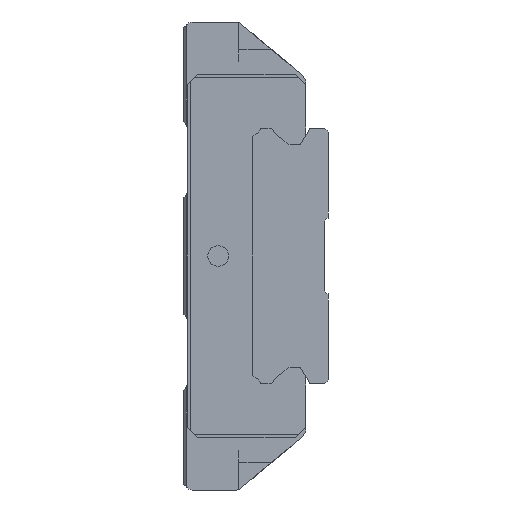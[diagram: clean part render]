
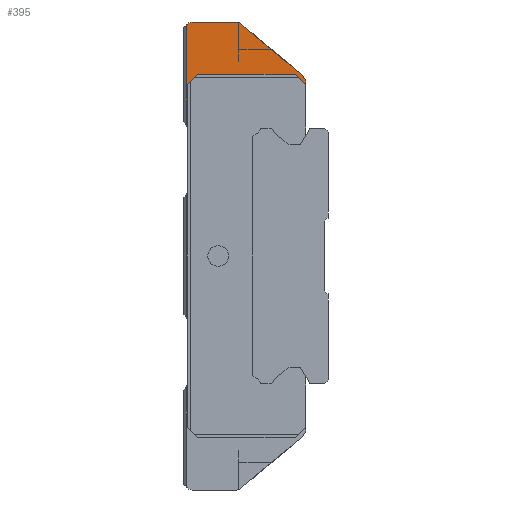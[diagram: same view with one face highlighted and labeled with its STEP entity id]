
A CAD part, left-side view. The second image highlights one B-rep face of the part: STEP entity #395.
In plain terms, the highlighted planar face has unit normal (-1, 0, 0).
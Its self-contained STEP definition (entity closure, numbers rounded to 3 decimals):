
#395 = ADVANCED_FACE( '', ( #1189 ), #1190, .F. );
#1189 = FACE_OUTER_BOUND( '', #2118, .T. );
#1190 = PLANE( '', #2119 );
#2118 = EDGE_LOOP( '', ( #4527, #4528, #4529, #4530, #4531, #4532, #4533, #4534, #4535, #4536, #4537, #4538, #4539 ) );
#2119 = AXIS2_PLACEMENT_3D( '', #4540, #4541, #4542 );
#4527 = ORIENTED_EDGE( '', *, *, #6318, .T. );
#4528 = ORIENTED_EDGE( '', *, *, #6309, .F. );
#4529 = ORIENTED_EDGE( '', *, *, #6322, .T. );
#4530 = ORIENTED_EDGE( '', *, *, #6323, .T. );
#4531 = ORIENTED_EDGE( '', *, *, #6324, .T. );
#4532 = ORIENTED_EDGE( '', *, *, #6325, .T. );
#4533 = ORIENTED_EDGE( '', *, *, #6326, .F. );
#4534 = ORIENTED_EDGE( '', *, *, #6327, .F. );
#4535 = ORIENTED_EDGE( '', *, *, #6328, .F. );
#4536 = ORIENTED_EDGE( '', *, *, #6329, .F. );
#4537 = ORIENTED_EDGE( '', *, *, #6330, .F. );
#4538 = ORIENTED_EDGE( '', *, *, #6331, .F. );
#4539 = ORIENTED_EDGE( '', *, *, #6319, .F. );
#4540 = CARTESIAN_POINT( '', ( 453.2, 3.3, 0. ) );
#4541 = DIRECTION( '', ( 1., 0., 0. ) );
#4542 = DIRECTION( '', ( 0., 0., -1. ) );
#6309 = EDGE_CURVE( '', #7806, #7808, #7809, .T. );
#6318 = EDGE_CURVE( '', #7821, #7808, #7823, .T. );
#6319 = EDGE_CURVE( '', #7821, #7824, #7825, .T. );
#6322 = EDGE_CURVE( '', #7806, #7829, #7830, .T. );
#6323 = EDGE_CURVE( '', #7829, #7831, #7832, .T. );
#6324 = EDGE_CURVE( '', #7831, #7833, #7834, .T. );
#6325 = EDGE_CURVE( '', #7833, #7835, #7836, .T. );
#6326 = EDGE_CURVE( '', #7837, #7835, #7838, .T. );
#6327 = EDGE_CURVE( '', #7839, #7837, #7840, .T. );
#6328 = EDGE_CURVE( '', #7841, #7839, #7842, .T. );
#6329 = EDGE_CURVE( '', #7843, #7841, #7844, .T. );
#6330 = EDGE_CURVE( '', #7845, #7843, #7846, .T. );
#6331 = EDGE_CURVE( '', #7824, #7845, #7847, .T. );
#7806 = VERTEX_POINT( '', #9801 );
#7808 = VERTEX_POINT( '', #9804 );
#7809 = CIRCLE( '', #9805, 1. );
#7821 = VERTEX_POINT( '', #9821 );
#7823 = LINE( '', #9824, #9825 );
#7824 = VERTEX_POINT( '', #9826 );
#7825 = LINE( '', #9827, #9828 );
#7829 = VERTEX_POINT( '', #9834 );
#7830 = LINE( '', #9835, #9836 );
#7831 = VERTEX_POINT( '', #9837 );
#7832 = LINE( '', #9838, #9839 );
#7833 = VERTEX_POINT( '', #9840 );
#7834 = LINE( '', #9841, #9842 );
#7835 = VERTEX_POINT( '', #9843 );
#7836 = LINE( '', #9844, #9845 );
#7837 = VERTEX_POINT( '', #9846 );
#7838 = LINE( '', #9847, #9848 );
#7839 = VERTEX_POINT( '', #9849 );
#7840 = CIRCLE( '', #9850, 2. );
#7841 = VERTEX_POINT( '', #9851 );
#7842 = LINE( '', #9852, #9853 );
#7843 = VERTEX_POINT( '', #9854 );
#7844 = CIRCLE( '', #9855, 1. );
#7845 = VERTEX_POINT( '', #9856 );
#7846 = LINE( '', #9857, #9858 );
#7847 = CIRCLE( '', #9859, 1. );
#9801 = CARTESIAN_POINT( '', ( 453.2, 20.5, 18.586 ) );
#9804 = CARTESIAN_POINT( '', ( 453.2, 20.6, 19.022 ) );
#9805 = AXIS2_PLACEMENT_3D( '', #12079, #12080, #12081 );
#9821 = CARTESIAN_POINT( '', ( 453.2, 20.6, 33.6 ) );
#9824 = CARTESIAN_POINT( '', ( 453.2, 20.6, 34. ) );
#9825 = VECTOR( '', #12096, 1. );
#9826 = CARTESIAN_POINT( '', ( 453.2, 20.493, 33.707 ) );
#9827 = CARTESIAN_POINT( '', ( 453.2, 21., 33.2 ) );
#9828 = VECTOR( '', #12097, 1. );
#9834 = CARTESIAN_POINT( '', ( 453.2, 20.5, 24.9 ) );
#9835 = CARTESIAN_POINT( '', ( 453.2, 20.5, 12.45 ) );
#9836 = VECTOR( '', #12100, 1. );
#9837 = CARTESIAN_POINT( '', ( 453.2, 19., 26.4 ) );
#9838 = CARTESIAN_POINT( '', ( 453.2, 21.675, 23.725 ) );
#9839 = VECTOR( '', #12101, 1. );
#9840 = CARTESIAN_POINT( '', ( 453.2, 4.8, 26.4 ) );
#9841 = CARTESIAN_POINT( '', ( 453.2, 4.05, 26.4 ) );
#9842 = VECTOR( '', #12102, 1. );
#9843 = CARTESIAN_POINT( '', ( 453.2, 3.3, 24.9 ) );
#9844 = CARTESIAN_POINT( '', ( 453.2, -2.925, 18.675 ) );
#9845 = VECTOR( '', #12103, 1. );
#9846 = CARTESIAN_POINT( '', ( 453.2, 3.3, 25.468 ) );
#9847 = CARTESIAN_POINT( '', ( 453.2, 3.3, 25.468 ) );
#9848 = VECTOR( '', #12104, 1. );
#9849 = CARTESIAN_POINT( '', ( 453.2, 3.914, 26.376 ) );
#9850 = AXIS2_PLACEMENT_3D( '', #12105, #12106, #12107 );
#9851 = CARTESIAN_POINT( '', ( 453.2, 12.721, 33.766 ) );
#9852 = CARTESIAN_POINT( '', ( 453.2, 12.721, 33.766 ) );
#9853 = VECTOR( '', #12108, 1. );
#9854 = CARTESIAN_POINT( '', ( 453.2, 13.364, 34. ) );
#9855 = AXIS2_PLACEMENT_3D( '', #12109, #12110, #12111 );
#9856 = CARTESIAN_POINT( '', ( 453.2, 19.786, 34. ) );
#9857 = CARTESIAN_POINT( '', ( 453.2, 19.786, 34. ) );
#9858 = VECTOR( '', #12112, 1. );
#9859 = AXIS2_PLACEMENT_3D( '', #12113, #12114, #12115 );
#12079 = CARTESIAN_POINT( '', ( 453.2, 21.5, 18.586 ) );
#12080 = DIRECTION( '', ( -1., 0., 0. ) );
#12081 = DIRECTION( '', ( 0., -1., 0. ) );
#12096 = DIRECTION( '', ( 0., 0., -1. ) );
#12097 = DIRECTION( '', ( 0., -0.707, 0.707 ) );
#12100 = DIRECTION( '', ( 0., 0., 1. ) );
#12101 = DIRECTION( '', ( 0., -0.707, 0.707 ) );
#12102 = DIRECTION( '', ( 0., -1., 0. ) );
#12103 = DIRECTION( '', ( 0., -0.707, -0.707 ) );
#12104 = DIRECTION( '', ( 0., 0., -1. ) );
#12105 = CARTESIAN_POINT( '', ( 453.2, 5.2, 24.844 ) );
#12106 = DIRECTION( '', ( 1., 0., 0. ) );
#12107 = DIRECTION( '', ( 0., -0.643, 0.766 ) );
#12108 = DIRECTION( '', ( 0., -0.766, -0.643 ) );
#12109 = CARTESIAN_POINT( '', ( 453.2, 13.364, 33. ) );
#12110 = DIRECTION( '', ( 1., 0., 0. ) );
#12111 = DIRECTION( '', ( 0., 0., 1. ) );
#12112 = DIRECTION( '', ( 0., -1., 0. ) );
#12113 = CARTESIAN_POINT( '', ( 453.2, 19.786, 33. ) );
#12114 = DIRECTION( '', ( 1., 0., 0. ) );
#12115 = DIRECTION( '', ( 0., 0.707, 0.707 ) );
